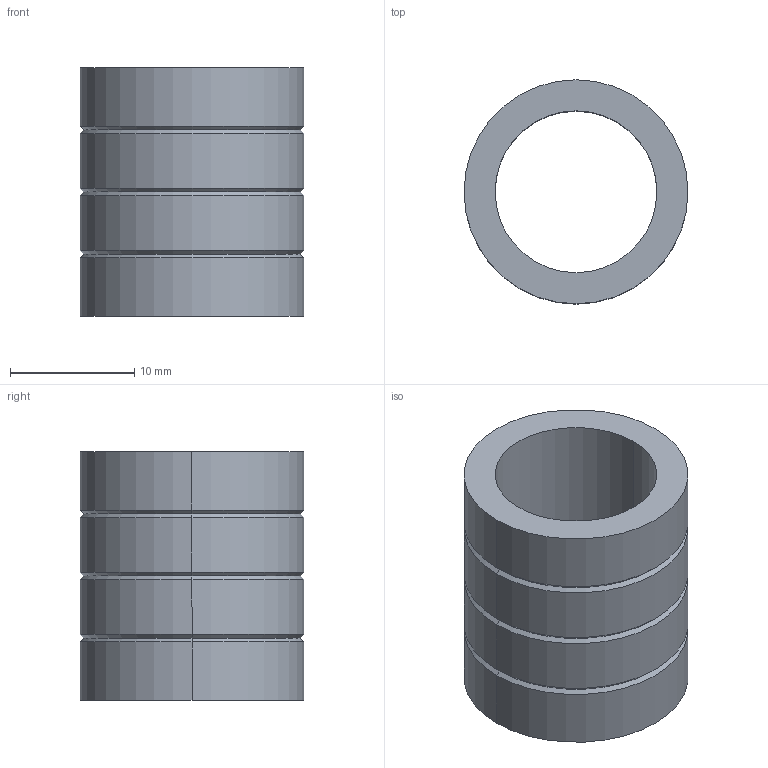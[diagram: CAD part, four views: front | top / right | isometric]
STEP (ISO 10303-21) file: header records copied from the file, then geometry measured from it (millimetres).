
FILE_DESCRIPTION(/* description */ (''),/* implementation_level */ '2;1');
FILE_NAME(/* name */ '3d_sgbl13-20_00004_r00.stp',/* time_stamp */ '2011-01-10T14:11:13+09:00',/* author */ ('MISUMI'),/* organization */ (''),/* preprocessor_version */ 'ST-DEVELOPER v11',/* originating_system */ 'UGS - NX 5.0',/* authorisation */ '');
FILE_SCHEMA (('CONFIG_CONTROL_DESIGN'));
Length unit declared in the file: millimetre
Products named in the file (1): 3d_sgbl13-20_00004_r00
Bounding box: 18 x 18 x 20 mm (x, y, z)
Volume: 2419.6 mm3; surface area: 2231 mm2
Topology: 1 solids, 1 shells, 24 faces, 48 edges, 26 vertices
Faces by surface type: cone 12, cylinder 10, plane 2
Entity records: 704 total; most frequent: DIRECTION 124, CARTESIAN_POINT 99, ORIENTED_EDGE 96, AXIS2_PLACEMENT_3D 51, EDGE_CURVE 48, EDGE_LOOP 26, VERTEX_POINT 26, CIRCLE 26
